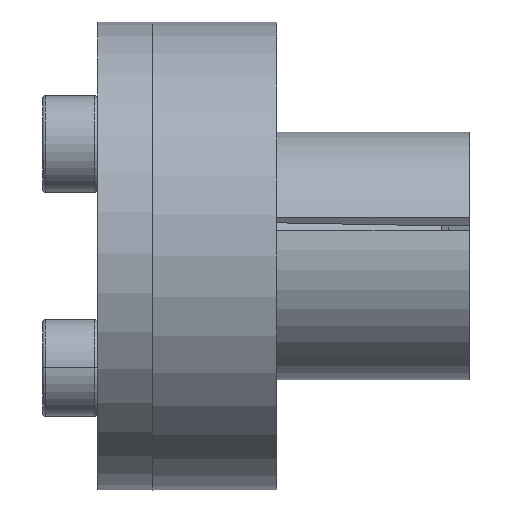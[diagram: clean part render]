
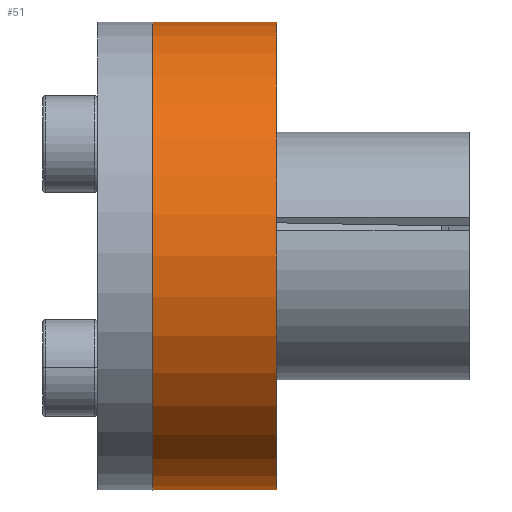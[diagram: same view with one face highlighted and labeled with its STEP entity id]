
A CAD part, front view. The second image highlights one B-rep face of the part: STEP entity #51.
In plain terms, the highlighted cylindrical face has radius 17 mm (diameter 34 mm), a partial arc.
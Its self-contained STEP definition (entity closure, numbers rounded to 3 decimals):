
#50 = CARTESIAN_POINT ( 'NONE',  ( -9.202, 0., -17. ) ) ;
#51 = ADVANCED_FACE ( 'NONE', ( #629 ), #3093, .T. ) ;
#160 = EDGE_LOOP ( 'NONE', ( #4178, #574, #276, #2655 ) ) ;
#276 = ORIENTED_EDGE ( 'NONE', *, *, #2538, .T. ) ;
#344 = EDGE_CURVE ( 'NONE', #1153, #3784, #3526, .T. ) ;
#367 = CARTESIAN_POINT ( 'NONE',  ( -0.202, 0., -17. ) ) ;
#402 = AXIS2_PLACEMENT_3D ( 'NONE', #731, #3071, #1078 ) ;
#574 = ORIENTED_EDGE ( 'NONE', *, *, #3152, .T. ) ;
#620 = VERTEX_POINT ( 'NONE', #2892 ) ;
#629 = FACE_OUTER_BOUND ( 'NONE', #160, .T. ) ;
#731 = CARTESIAN_POINT ( 'NONE',  ( -0.202, 0., 0. ) ) ;
#775 = DIRECTION ( 'NONE',  ( -1., 0., 0. ) ) ;
#989 = CARTESIAN_POINT ( 'NONE',  ( -14.458, 0., 17. ) ) ;
#996 = AXIS2_PLACEMENT_3D ( 'NONE', #2393, #3439, #1722 ) ;
#1078 = DIRECTION ( 'NONE',  ( 0., 0., 1. ) ) ;
#1149 = VECTOR ( 'NONE', #775, 1000. ) ;
#1153 = VERTEX_POINT ( 'NONE', #50 ) ;
#1225 = DIRECTION ( 'NONE',  ( -1., 0., 0. ) ) ;
#1305 = VERTEX_POINT ( 'NONE', #367 ) ;
#1722 = DIRECTION ( 'NONE',  ( 0., 0., 1. ) ) ;
#1764 = CARTESIAN_POINT ( 'NONE',  ( -9.202, 0., 17. ) ) ;
#2026 = LINE ( 'NONE', #3223, #3819 ) ;
#2393 = CARTESIAN_POINT ( 'NONE',  ( -9.202, 0., 0. ) ) ;
#2408 = DIRECTION ( 'NONE',  ( 0., 0., 1. ) ) ;
#2538 = EDGE_CURVE ( 'NONE', #620, #3784, #2722, .T. ) ;
#2655 = ORIENTED_EDGE ( 'NONE', *, *, #344, .F. ) ;
#2722 = LINE ( 'NONE', #989, #1149 ) ;
#2825 = CARTESIAN_POINT ( 'NONE',  ( -14.458, 0., 0. ) ) ;
#2892 = CARTESIAN_POINT ( 'NONE',  ( -0.202, 0., 17. ) ) ;
#2897 = DIRECTION ( 'NONE',  ( -1., 0., 0. ) ) ;
#2976 = CIRCLE ( 'NONE', #402, 17. ) ;
#3071 = DIRECTION ( 'NONE',  ( -1., 0., 0. ) ) ;
#3093 = CYLINDRICAL_SURFACE ( 'NONE', #4246, 17. ) ;
#3152 = EDGE_CURVE ( 'NONE', #1305, #620, #2976, .T. ) ;
#3223 = CARTESIAN_POINT ( 'NONE',  ( -14.458, 0., -17. ) ) ;
#3425 = EDGE_CURVE ( 'NONE', #1305, #1153, #2026, .T. ) ;
#3439 = DIRECTION ( 'NONE',  ( -1., 0., 0. ) ) ;
#3526 = CIRCLE ( 'NONE', #996, 17. ) ;
#3784 = VERTEX_POINT ( 'NONE', #1764 ) ;
#3819 = VECTOR ( 'NONE', #1225, 1000. ) ;
#4178 = ORIENTED_EDGE ( 'NONE', *, *, #3425, .F. ) ;
#4246 = AXIS2_PLACEMENT_3D ( 'NONE', #2825, #2897, #2408 ) ;
